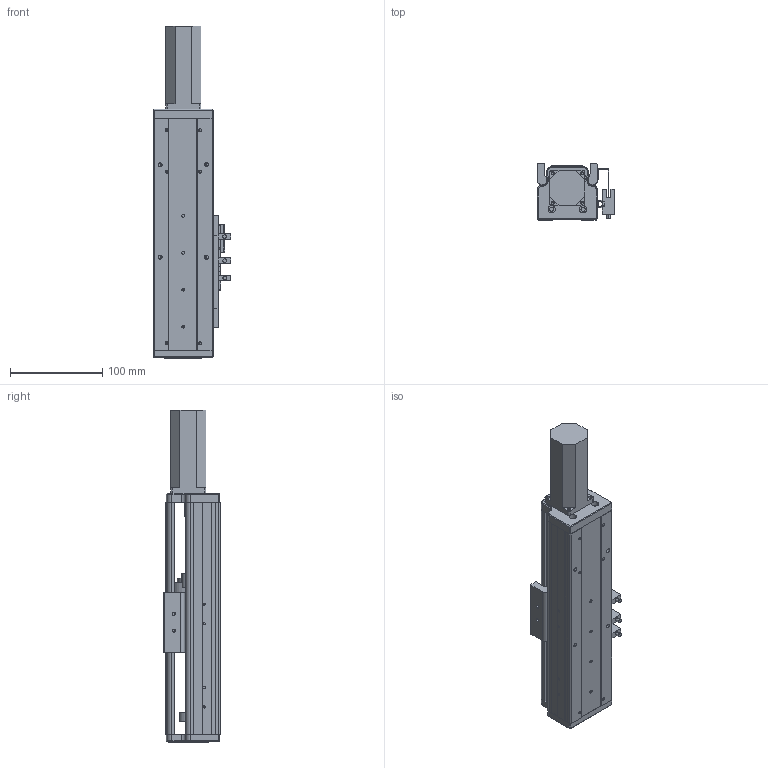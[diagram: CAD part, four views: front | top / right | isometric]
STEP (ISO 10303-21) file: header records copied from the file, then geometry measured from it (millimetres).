
FILE_DESCRIPTION (( 'STEP AP203' ), '1' );
FILE_NAME ('RY60-L1210-300-MK.SLDASM_50.step', '2021-02-20T01:55:44', ( '' ), ( '' ), 'SwSTEP 2.0', 'SolidWorks 2012', '' );
FILE_SCHEMA (( 'CONFIG_CONTROL_DESIGN' ));
Length unit declared in the file: millimetre
Products named in the file (13): RY60-300倰第菁釱-MK_50; RY60-L1210-300-MK.SLDASM_50; SFN1210螺母(没线割）; RY60綴裔啣; 滅袉蝶18-10; RY60前盖板100(PCD46-M4); RY80俋离覜茼え; 侂狟100W; 滅袉蝶18-20; 672嫖萇羲壽假蚾釱; 覜茼ん672; RY60臏賑輸; RY60-300倰第裔啣-MK_50
Assembly tree (17 placements, depth 2):
  RY60-L1210-300-MK.SLDASM_50
    RY60-300倰第菁釱-MK_50
    RY60臏賑輸
    RY60-300倰第裔啣-MK_50
    RY60前盖板100(PCD46-M4)
    672嫖萇羲壽假蚾釱  x2
    覜茼ん672  x3
    RY80俋离覜茼え
    侂狟100W
    滅袉蝶18-20  x2
    滅袉蝶18-10  x2
    RY60綴裔啣
    SFN1210螺母(没线割）
Bounding box: 83.7 x 61 x 359 mm (x, y, z)
Volume: 508519.8 mm3; surface area: 219367.9 mm2
Topology: 18 solids, 18 shells, 1033 faces, 2864 edges, 1854 vertices
Faces by surface type: plane 509, cylinder 460, cone 55, bspline 9
Entity records: 32336 total; most frequent: CARTESIAN_POINT 7150, ORIENTED_EDGE 5008, DIRECTION 4887, EDGE_CURVE 2504, AXIS2_PLACEMENT_3D 1689, VERTEX_POINT 1638, LINE 1509, VECTOR 1509
